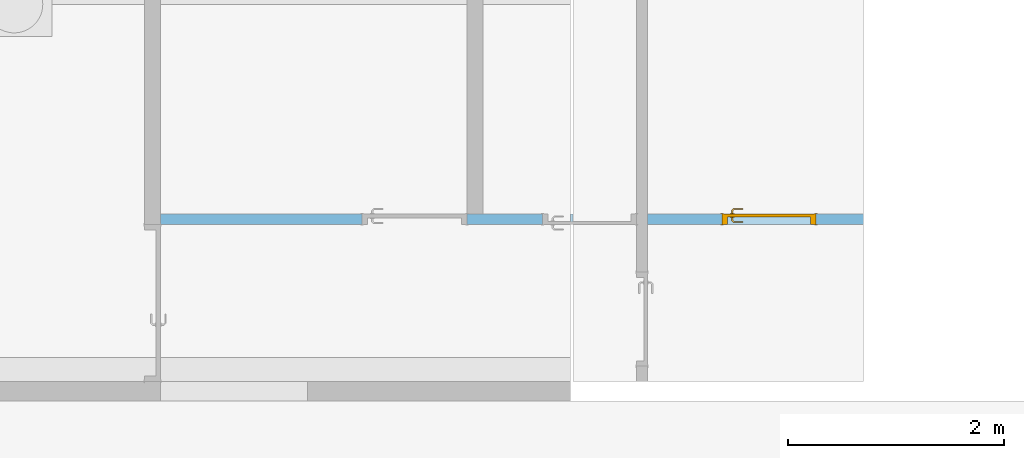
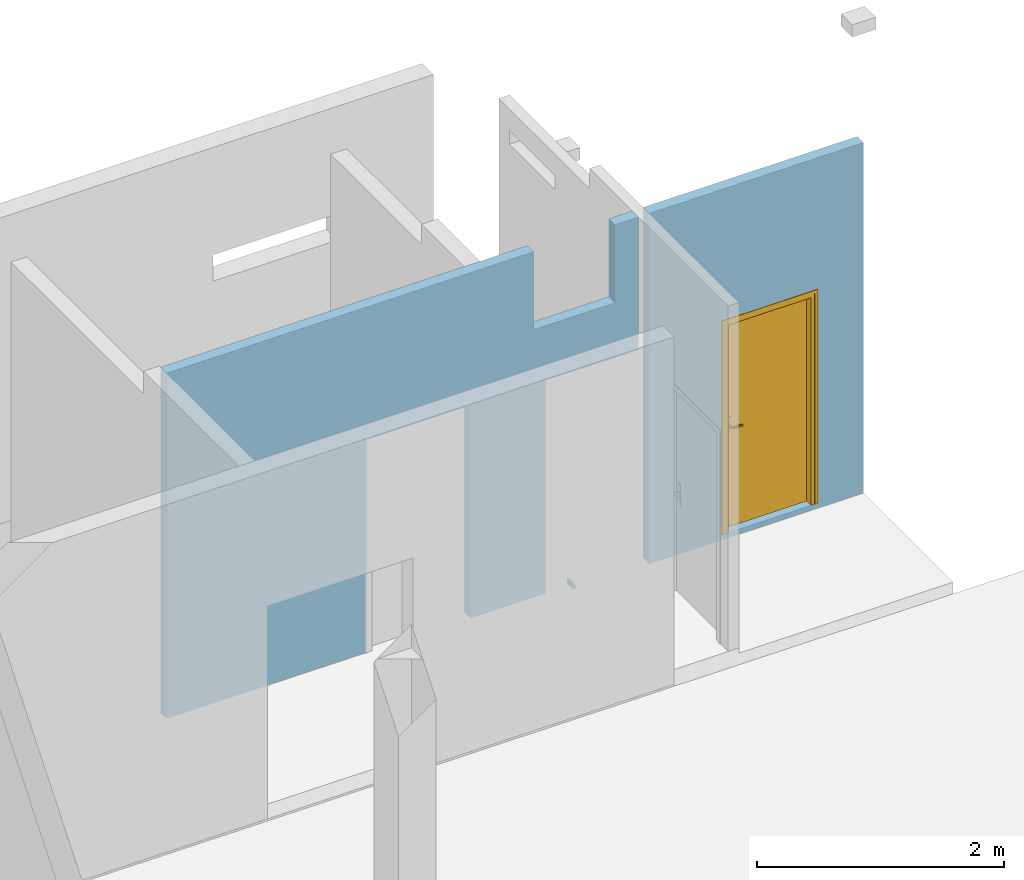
# One storey, part 25 of 29: 1 door, 3 openings, plus 1 element that does not belong to this part.
"""IFC2X3 building model written with IfcOpenShell, lengths in centimetres."""

from ifc_helpers import new_model, entity, si_unit, converted_unit, derived_unit, direction, frame, frame_2d, origin, place, context, subcontext, project, spatial, rectangle, extrude, faceted_brep, source, transform, mapped, material, material_list, layer, layer_set, type_object, type_shapes, element, fill, save


model = new_model("IFC2X3")

# Units and contexts
model_context = context("Model", 3, precision=0.001, world=origin(), true_north=direction((6.12303176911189e-17, 1.0)))
body_context = subcontext(model_context, "Body", "Model", "MODEL_VIEW")
ifc_project = project(units=[si_unit("LENGTHUNIT", "METRE", prefix="CENTI"), si_unit("AREAUNIT", "SQUARE_METRE"), si_unit("VOLUMEUNIT", "CUBIC_METRE"), converted_unit("PLANEANGLEUNIT", "DEGREE", entity("IfcRatioMeasure", 0.0174532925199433), si_unit("PLANEANGLEUNIT", "RADIAN"), dimensions=[0, 0, 0, 0, 0, 0, 0]), si_unit("MASSUNIT", "GRAM", prefix="KILO"), derived_unit("MASSDENSITYUNIT", [(si_unit("MASSUNIT", "GRAM", prefix="KILO"), 1), (si_unit("LENGTHUNIT", "METRE"), -3)]), si_unit("TIMEUNIT", "SECOND"), si_unit("FREQUENCYUNIT", "HERTZ"), si_unit("THERMODYNAMICTEMPERATUREUNIT", "DEGREE_CELSIUS"), derived_unit("THERMALTRANSMITTANCEUNIT", [(si_unit("MASSUNIT", "GRAM", prefix="KILO"), 1), (si_unit("THERMODYNAMICTEMPERATUREUNIT", "KELVIN"), -1), (si_unit("TIMEUNIT", "SECOND"), -3)]), derived_unit("VOLUMETRICFLOWRATEUNIT", [(si_unit("LENGTHUNIT", "METRE"), 3), (si_unit("TIMEUNIT", "SECOND"), -1)]), si_unit("ELECTRICCURRENTUNIT", "AMPERE"), si_unit("ELECTRICVOLTAGEUNIT", "VOLT"), si_unit("POWERUNIT", "WATT"), si_unit("FORCEUNIT", "NEWTON"), si_unit("ILLUMINANCEUNIT", "LUX"), si_unit("LUMINOUSFLUXUNIT", "LUMEN"), si_unit("LUMINOUSINTENSITYUNIT", "CANDELA"), derived_unit("USERDEFINED", [(si_unit("MASSUNIT", "GRAM", prefix="KILO"), -1), (si_unit("LENGTHUNIT", "METRE"), -2), (si_unit("TIMEUNIT", "SECOND"), 3), (si_unit("LUMINOUSFLUXUNIT", "LUMEN"), 1)]), derived_unit("LINEARVELOCITYUNIT", [(si_unit("LENGTHUNIT", "METRE"), 1), (si_unit("TIMEUNIT", "SECOND"), -1)]), si_unit("PRESSUREUNIT", "PASCAL"), derived_unit("USERDEFINED", [(si_unit("LENGTHUNIT", "METRE"), -2), (si_unit("MASSUNIT", "GRAM", prefix="KILO"), 1), (si_unit("TIMEUNIT", "SECOND"), -2)])], contexts=[model_context])

# Site, building, storey
site_placement = place(None, origin())
site = spatial("IfcSite", under=ifc_project, at=site_placement, Name="Default", CompositionType="ELEMENT")
building_placement = place(site_placement, origin())
building = spatial("IfcBuilding", under=site, at=building_placement, Name="CAGE 03", CompositionType="ELEMENT")
storey_placement = place(building_placement, frame((0.0, 0.0, -26.0)))
storey = spatial("IfcBuildingStorey", under=building, at=storey_placement, Name="+3.74", CompositionType="ELEMENT", Elevation=-26.0000000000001)

# Wall, openings, door
ifc_material_1 = material(Name="Bloc béton")
ifc_layer = layer(ifc_material_1, 10.0)
ifc_layer_set = layer_set([ifc_layer], Name="Mur de base:Int. Parpaing 100 mm")
wall_type = type_object("IfcWallType", Name="Mur de base:Int. Parpaing 100 mm", PredefinedType="STANDARD", material=ifc_layer_set)
wall_placement = place(storey_placement, frame((8407.86582014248, 5054.6606660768, -5.0)))
wall = element("IfcWall", 1, at=wall_placement, inside=storey, type_object=wall_type, Name="Mur de base:Int. Parpaing 100 mm", ObjectType="Mur de base:Int. Parpaing 100 mm", context=body_context, shape_type="Brep", body=[
    faceted_brep([(379.500000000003, -5.0, 0.0), (381.500000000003, -5.0, 0.0), (381.500000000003, -5.0, 5.0), (379.500000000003, -5.0, 5.0), (381.500000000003, 5.0, 5.0), (379.500000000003, 5.0, 5.0), (379.500000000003, 5.0, 0.0), (381.500000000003, 5.0, 0.0)], [[[0, 1, 2, 3]], [[3, 2, 4, 5]], [[1, 0, 6, 7]], [[2, 1, 7, 4]], [[0, 3, 5, 6]], [[7, 6, 5, 4]]]),
    faceted_brep([(606.5, 5.0, 5.0), (606.5, 5.0, 215.0), (519.499999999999, 5.0, 215.0), (519.500000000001, 5.0, 5.0), (450.500000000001, 5.0, 0.0), (450.500000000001, 5.0, 346.0), (650.5, 5.0, 346.0), (650.5, 5.0, 0.0), (450.500000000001, -5.0, 346.0), (450.500000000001, -5.0, 0.0), (650.5, -5.0, 346.0), (650.5, -5.0, 0.0), (606.5, -5.0, 5.0), (606.5, -5.0, 215.0), (519.500000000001, -5.0, 215.0), (519.500000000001, -5.0, 5.0)], [[[0, 1, 2, 3], [4, 5, 6, 7]], [[8, 5, 4, 9]], [[10, 11, 7, 6]], [[0, 12, 13, 1]], [[1, 13, 14, 2]], [[15, 3, 2, 14]], [[12, 0, 3, 15]], [[8, 10, 6, 5]], [[7, 11, 9, 4]], [[8, 9, 11, 10], [13, 12, 15, 14]]], outer=[[False, True], [True], [True], [True], [True], [True], [True], [True], [True], [True, False]]),
    faceted_brep([(0.0, -5.0, 346.0), (0.0, 5.0, 346.0), (0.0, 5.0, 5.0), (0.0, -5.0, 5.0), (0.0, -5.0, 212.500000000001), (440.500000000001, -5.0, 346.0), (440.500000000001, -5.0, 215.0), (440.500000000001, 5.0, 215.0), (440.500000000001, 5.0, 346.0), (283.499999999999, -5.0, 215.0), (283.499999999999, 5.0, 215.0), (283.499999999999, 5.0, 5.0), (283.499999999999, -5.0, 5.0), (186.5, -5.0, 215.0), (186.5, 5.0, 215.0), (186.5, -5.0, 5.0), (186.5, 5.0, 5.0), (353.5, -5.0, 215.0), (353.5, 5.0, 215.0), (353.5, -5.0, 5.0), (353.5, 5.0, 5.0), (418.499999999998, -5.0, 269.0), (418.499999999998, -5.0, 346.0), (418.499999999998, 5.0, 346.0), (418.499999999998, 5.0, 269.0), (342.499999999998, -5.0, 269.0), (342.499999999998, 5.0, 269.0), (342.499999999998, -5.0, 346.0), (342.499999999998, 5.0, 346.0), (298.500000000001, 5.0, 346.0), (283.500000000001, 5.0, 346.0), (298.500000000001, 5.0, 5.0)], [[[0, 1, 2, 3, 4]], [[5, 6, 7, 8]], [[9, 10, 11, 12]], [[10, 9, 13, 14]], [[14, 13, 15, 16]], [[17, 18, 7, 6]], [[18, 17, 19, 20]], [[21, 22, 23, 24]], [[25, 21, 24, 26]], [[27, 25, 26, 28]], [[0, 27, 28, 29, 30, 1]], [[15, 3, 2, 16]], [[19, 12, 11, 31, 20]], [[22, 5, 8, 23]], [[8, 7, 18, 20, 31, 11, 10, 14, 16, 2, 1, 30, 29, 28, 26, 24, 23]], [[6, 5, 22, 21, 25, 27, 0, 4, 3, 15, 13, 9, 12, 19, 17]]]),
])
opening_1_placement = place(wall_placement, frame((186.500000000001, -5.0, 5.0)))
element("IfcOpeningElement", 2, at=opening_1_placement, cuts=wall, Name="Int. Simple:HB93:1", ObjectType="Opening", context=body_context, shape_type="SweptSolid", body=[
    extrude(rectangle(XDim=210.000000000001, YDim=96.9999999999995, at=frame_2d((105.000000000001, 48.4999999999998), x_axis=(1.0, 0.0))), frame((0.0, 0.0, 0.0), z_axis=(0.0, 1.0, 0.0), x_axis=(0.0, 0.0, 1.0)), (0.0, 0.0, 1.0), 10.0),
])
opening_2_placement = place(wall_placement, frame((440.500000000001, 5.0, 5.0)))
element("IfcOpeningElement", 3, at=opening_2_placement, cuts=wall, Name="Int. Simple:HB83:1", ObjectType="Opening", context=body_context, shape_type="SweptSolid", body=[
    extrude(rectangle(XDim=210.000000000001, YDim=86.9999999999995, at=frame_2d((105.000000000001, 43.4999999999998), x_axis=(1.0, 0.0))), frame((0.0, 0.0, 0.0), z_axis=(0.0, -1.0, 0.0), x_axis=(0.0, 0.0, 1.0)), (0.0, 0.0, 1.0), 10.0),
])
opening_3_placement = place(wall_placement, frame((519.500000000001, -5.0, 5.0)))
opening_3 = element("IfcOpeningElement", 4, at=opening_3_placement, cuts=wall, Name="Int. Simple:HB83:1", ObjectType="Opening", context=body_context, shape_type="SweptSolid", body=[
    extrude(rectangle(XDim=210.000000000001, YDim=86.9999999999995, at=frame_2d((105.000000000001, 43.4999999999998), x_axis=(1.0, 0.0))), frame((0.0, 0.0, 0.0), z_axis=(0.0, 1.0, 0.0), x_axis=(0.0, 0.0, 1.0)), (0.0, 0.0, 1.0), 10.0),
])
ifc_material_2 = material(Name="Finition Peinture - Blanc satiné")
ifc_material_3 = material(Name="Bois - Panneau de porte")
ifc_material_4 = material(Name="Bois - Cadre de porte")
ifc_material_list_1 = material_list([ifc_material_2, ifc_material_3, ifc_material_4])
ifc_material_list_2 = material_list([ifc_material_2, ifc_material_3, ifc_material_4])
door_style = type_object("IfcDoorStyle", Name="HB83", ConstructionType="NOTDEFINED", OperationType="SINGLE_SWING_RIGHT", ParameterTakesPrecedence=False, Sizeable=False, material=ifc_material_list_2)
shared_shape = source(origin(), body_context, "Body", "Brep", [
    faceted_brep([(86.5000000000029, -0.500000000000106, 87.0), (86.5000000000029, -0.500000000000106, 108.0), (85.535276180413, -0.500000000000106, 108.399601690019), (84.5000000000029, -0.500000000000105, 108.535898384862), (83.4647238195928, -0.500000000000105, 108.399601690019), (82.500000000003, -0.500000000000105, 108.0), (82.5000000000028, -0.500000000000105, 87.0), (83.4647238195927, -0.500000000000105, 86.6003983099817), (84.5000000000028, -0.500000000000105, 86.464101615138), (85.5352761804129, -0.500000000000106, 86.6003983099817), (86.5000000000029, 0.0, 108.0), (86.5000000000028, 0.0, 87.0), (85.5352761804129, 0.0, 86.6003983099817), (84.5000000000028, 0.0, 86.464101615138), (83.4647238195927, 0.0, 86.6003983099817), (82.5000000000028, 0.0, 87.0), (82.500000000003, 0.0, 108.0), (83.4647238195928, 0.0, 108.399601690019), (84.5000000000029, 0.0, 108.535898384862), (85.535276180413, 0.0, 108.399601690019)], [[[0, 1, 2, 3, 4, 5, 6, 7, 8, 9]], [[10, 11, 12, 13, 14, 15, 16, 17, 18, 19]], [[9, 12, 11, 0]], [[8, 13, 12, 9]], [[7, 14, 13, 8]], [[7, 6, 15, 14]], [[15, 6, 5, 16]], [[4, 17, 16, 5]], [[3, 18, 17, 4]], [[2, 19, 18, 3]], [[2, 1, 10, 19]], [[11, 10, 1, 0]]]),
    faceted_brep([(86.5000000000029, 3.0, 87.0), (86.5000000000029, 3.0, 108.0), (85.535276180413, 3.0, 108.399601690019), (84.500000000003, 3.0, 108.535898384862), (83.4647238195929, 3.0, 108.399601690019), (82.500000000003, 3.0, 108.0), (82.5000000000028, 3.0, 87.0), (83.4647238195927, 3.0, 86.6003983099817), (84.5000000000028, 3.0, 86.464101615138), (85.5352761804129, 3.0, 86.6003983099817), (84.500000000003, 3.49999999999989, 108.535898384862), (85.535276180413, 3.49999999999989, 108.399601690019), (86.5000000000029, 3.49999999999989, 108.0), (86.5000000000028, 3.49999999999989, 87.0), (85.5352761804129, 3.49999999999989, 86.6003983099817), (84.5000000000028, 3.49999999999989, 86.464101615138), (83.4647238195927, 3.49999999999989, 86.6003983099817), (82.5000000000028, 3.49999999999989, 87.0), (82.500000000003, 3.49999999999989, 108.0), (83.4647238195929, 3.49999999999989, 108.399601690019)], [[[0, 1, 2, 3, 4, 5, 6, 7, 8, 9]], [[10, 11, 12, 13, 14, 15, 16, 17, 18, 19]], [[4, 19, 18, 5]], [[3, 10, 19, 4]], [[2, 11, 10, 3]], [[2, 1, 12, 11]], [[13, 12, 1, 0]], [[9, 14, 13, 0]], [[8, 15, 14, 9]], [[7, 16, 15, 8]], [[7, 6, 17, 16]], [[17, 6, 5, 18]]]),
    faceted_brep([(84.297470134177, -0.50000000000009, 100.778044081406), (84.7025298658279, -0.500000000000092, 100.778044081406), (85.1000000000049, -0.500000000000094, 100.699999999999), (85.1000000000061, -0.500000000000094, 99.299999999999), (84.702529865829, -0.500000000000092, 99.2219559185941), (84.297470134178, -0.50000000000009, 99.2219559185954), (83.9000000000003, -0.500000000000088, 99.3000000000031), (83.9000000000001, -0.500000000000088, 100.7), (84.7025298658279, -3.1004575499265, 100.778044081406), (85.1000000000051, -3.26509507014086, 100.7), (84.297470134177, -2.93267631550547, 100.778044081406), (82.9298602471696, -4.30028620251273, 100.778044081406), (83.0976414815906, -4.70534593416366, 100.778044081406), (83.9000000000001, -2.76803879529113, 100.7), (83.9000000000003, -2.76803879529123, 99.3000000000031), (84.297470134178, -2.93267631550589, 99.2219559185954), (84.702529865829, -3.10045754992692, 99.2219559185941), (83.097641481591, -4.70534593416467, 99.2219559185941), (82.92986024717, -4.30028620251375, 99.2219559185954), (85.1000000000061, -3.26509507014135, 99.299999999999), (83.2622790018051, -5.10281606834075, 100.7), (82.7652227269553, -3.90281606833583, 100.7), (82.7652227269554, -3.90281606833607, 99.3000000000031), (83.2622790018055, -5.10281606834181, 99.299999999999), (74.4981359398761, -5.1028160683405, 100.7), (74.4981359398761, -4.7053459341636, 100.778044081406), (74.4981359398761, -4.30028620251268, 100.778044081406), (74.4981359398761, -3.90281606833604, 100.699999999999), (74.4981359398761, -3.90281606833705, 99.3000000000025), (74.4981359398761, -4.30028620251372, 99.2219559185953), (74.4981359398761, -4.70534593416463, 99.2219559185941), (74.4981359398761, -5.10281606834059, 99.2999999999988), (78.7139980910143, -4.50281606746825, 100.78786867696), (79.2692302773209, -5.10281606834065, 100.7), (78.6316793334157, -3.90281606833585, 100.7), (78.6316793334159, -3.90281606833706, 99.3000000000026), (78.7139981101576, -4.50281607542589, 99.2121313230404), (79.2692299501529, -5.10281606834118, 99.2999999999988)], [[[0, 1, 2, 3, 4, 5, 6, 7]], [[2, 1, 8, 9]], [[1, 0, 10, 11, 12, 8]], [[0, 7, 13, 10]], [[14, 13, 7, 6]], [[5, 15, 14, 6]], [[5, 4, 16, 17, 18, 15]], [[3, 19, 16, 4]], [[9, 19, 3, 2]], [[9, 8, 12, 20]], [[10, 13, 21, 11]], [[22, 21, 13, 14]], [[14, 15, 18, 22]], [[16, 19, 23, 17]], [[20, 23, 19, 9]], [[24, 25, 26, 27, 28, 29, 30, 31]], [[32, 25, 33]], [[33, 25, 24]], [[33, 20, 12]], [[11, 34, 32]], [[34, 11, 21]], [[27, 26, 34]], [[32, 26, 25]], [[32, 34, 26]], [[32, 33, 12]], [[11, 32, 12]], [[21, 22, 35, 28, 27, 34]], [[36, 29, 35]], [[30, 36, 37]], [[18, 35, 22]], [[29, 28, 35]], [[30, 37, 31]], [[37, 17, 23]], [[36, 17, 37]], [[36, 18, 17]], [[36, 35, 18]], [[29, 36, 30]], [[23, 20, 33, 24, 31, 37]]]),
    faceted_brep([(84.2974701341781, 3.49999999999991, 99.2219559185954), (84.702529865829, 3.49999999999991, 99.2219559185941), (85.1000000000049, 3.49999999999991, 99.2999999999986), (85.1000000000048, 3.49999999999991, 100.7), (84.7025298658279, 3.49999999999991, 100.778044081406), (84.297470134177, 3.49999999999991, 100.778044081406), (83.9000000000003, 3.49999999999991, 100.7), (83.9000000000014, 3.49999999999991, 99.3000000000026), (83.9000000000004, 5.74852045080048, 100.7), (83.9000000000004, 5.74852045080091, 99.3000000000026), (84.2974701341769, 5.91315797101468, 100.778044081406), (84.7025298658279, 6.08093920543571, 100.778044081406), (83.0838906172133, 7.69957845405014, 100.778044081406), (82.9161093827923, 7.29451872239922, 100.778044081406), (85.1000000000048, 6.24557672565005, 100.7), (85.1000000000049, 6.2455767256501, 99.2999999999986), (84.702529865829, 6.08093920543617, 99.2219559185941), (84.2974701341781, 5.91315797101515, 99.2219559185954), (82.9161093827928, 7.29451872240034, 99.2219559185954), (83.0838906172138, 7.69957845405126, 99.2219559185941), (82.7514718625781, 6.89704858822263, 100.7), (82.7514718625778, 6.89704858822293, 99.3000000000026), (83.2485281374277, 8.09704858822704, 100.7), (83.2485281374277, 8.09704858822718, 99.2999999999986), (74.4954216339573, 7.29451872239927, 100.778044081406), (74.4954216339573, 7.6995784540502, 100.778044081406), (74.4954216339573, 8.0970485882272, 100.7), (74.4954216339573, 8.09704858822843, 99.299999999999), (74.4954216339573, 7.6995784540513, 99.2219559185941), (74.4954216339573, 7.29451872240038, 99.2219559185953), (74.4954216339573, 6.89704858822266, 99.3000000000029), (74.4954216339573, 6.89704858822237, 100.7), (78.6234467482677, 6.89704858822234, 100.7), (78.6234479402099, 6.89704858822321, 99.3000000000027), (78.7057655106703, 7.49704858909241, 100.78786867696), (79.255479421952, 8.09704858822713, 100.7), (79.2554794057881, 8.09704858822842, 99.299999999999), (78.7057654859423, 7.49704858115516, 99.2121313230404)], [[[0, 1, 2, 3, 4, 5, 6, 7]], [[8, 9, 7, 6]], [[5, 10, 8, 6]], [[5, 4, 11, 12, 13, 10]], [[3, 14, 11, 4]], [[14, 3, 2, 15]], [[2, 1, 16, 15]], [[1, 0, 17, 18, 19, 16]], [[0, 7, 9, 17]], [[20, 21, 9, 8]], [[8, 10, 13, 20]], [[14, 22, 12, 11]], [[23, 22, 14, 15]], [[15, 16, 19, 23]], [[17, 9, 21, 18]], [[24, 25, 26, 27, 28, 29, 30, 31]], [[20, 32, 31, 30, 33, 21]], [[34, 24, 32]], [[25, 34, 35]], [[13, 32, 20]], [[24, 31, 32]], [[25, 35, 26]], [[35, 12, 22]], [[34, 12, 35]], [[34, 13, 12]], [[34, 32, 13]], [[24, 34, 25]], [[22, 23, 36, 27, 26, 35]], [[37, 28, 36]], [[36, 28, 27]], [[36, 23, 19]], [[18, 33, 37]], [[33, 18, 21]], [[30, 29, 33]], [[37, 29, 28]], [[37, 33, 29]], [[37, 36, 19]], [[18, 37, 19]]]),
    faceted_brep([(90.5000000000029, 3.0, 206.5), (90.5000000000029, 3.0, 0.0), (10.5000000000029, 3.0, 0.0), (10.5000000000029, 3.0, 206.5), (90.5000000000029, 0.0, 206.5), (10.5000000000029, 0.0, 206.5), (10.5000000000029, 0.0, 0.0), (90.5000000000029, 0.0, 0.0)], [[[0, 1, 2, 3]], [[4, 5, 6, 7]], [[3, 5, 4, 0]], [[2, 6, 5, 3]], [[1, 7, 6, 2]], [[0, 4, 7, 1]]]),
    faceted_brep([(94.0, 0.0, 0.0), (90.5000000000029, 0.0, 0.0), (90.5000000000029, 3.0, 0.0), (89.0, 3.0, 0.0), (89.0, 10.0, 0.0), (94.0, 10.0, 0.0), (94.0, 10.0, 210.0), (94.0, 0.0, 210.0), (89.0, 10.0, 205.0), (12.0, 10.0, 205.0), (12.0, 10.0, 0.0), (7.0, 10.0, 0.0), (7.0, 10.0, 210.0), (89.0, 3.0, 205.0), (90.5000000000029, 3.0, 206.5), (10.5000000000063, 3.0, 206.5), (10.5000000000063, 3.0, 0.0), (12.0, 3.0, 0.0), (12.0, 3.0, 205.0), (90.5000000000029, 0.0, 206.5), (7.0, 0.0, 210.0), (7.0, 0.0, 0.0), (10.5000000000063, 0.0, 0.0), (10.5000000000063, 0.0, 206.5)], [[[0, 1, 2, 3, 4, 5]], [[5, 6, 7, 0]], [[4, 8, 9, 10, 11, 12, 6, 5]], [[3, 13, 8, 4]], [[2, 14, 15, 16, 17, 18, 13, 3]], [[1, 19, 14, 2]], [[0, 7, 20, 21, 22, 23, 19, 1]], [[12, 11, 21, 20]], [[21, 11, 10, 17, 16, 22]], [[18, 17, 10, 9]], [[23, 22, 16, 15]], [[6, 12, 20, 7]], [[13, 18, 9, 8]], [[19, 23, 15, 14]]]),
    faceted_brep([(92.5000000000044, 10.0, 0.0), (92.5000000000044, 10.5000000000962, 0.0), (95.5000000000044, 10.5000000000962, 0.0), (95.5000000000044, 10.0, 0.0), (95.5000000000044, 10.0, 211.500000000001), (5.50000000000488, 10.0, 211.500000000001), (5.50000000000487, 10.0, 0.0), (8.50000000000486, 10.0, 0.0), (8.50000000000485, 10.0, 208.500000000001), (92.5000000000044, 10.0, 208.500000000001), (95.5000000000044, 10.5000000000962, 211.500000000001), (92.5000000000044, 10.5000000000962, 208.500000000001), (8.50000000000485, 10.5000000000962, 208.500000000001), (8.50000000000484, 10.5000000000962, 0.0), (5.50000000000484, 10.5000000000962, 0.0), (5.50000000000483, 10.5000000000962, 211.500000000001)], [[[0, 1, 2, 3]], [[3, 4, 5, 6, 7, 8, 9, 0]], [[2, 10, 4, 3]], [[1, 11, 12, 13, 14, 15, 10, 2]], [[0, 9, 11, 1]], [[7, 6, 14, 13]], [[8, 7, 13, 12]], [[15, 14, 6, 5]], [[10, 15, 5, 4]], [[9, 8, 12, 11]]]),
    faceted_brep([(95.5000000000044, -0.5, 0.0), (95.5000000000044, -0.5, 211.500000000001), (5.50000000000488, -0.5, 211.500000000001), (5.50000000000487, -0.5, 0.0), (8.50000000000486, -0.5, 0.0), (8.50000000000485, -0.5, 208.500000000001), (92.5000000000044, -0.5, 208.500000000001), (92.5000000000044, -0.5, 0.0), (95.5000000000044, 0.0, 0.0), (95.5000000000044, 0.0, 211.500000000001), (92.5000000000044, 0.0, 0.0), (92.5000000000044, 0.0, 208.500000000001), (8.50000000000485, 0.0, 208.500000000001), (8.50000000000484, 0.0, 0.0), (5.50000000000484, 0.0, 0.0), (5.50000000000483, 0.0, 211.500000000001)], [[[0, 1, 2, 3, 4, 5, 6, 7]], [[8, 9, 1, 0]], [[10, 11, 12, 13, 14, 15, 9, 8]], [[7, 6, 11, 10]], [[5, 4, 13, 12]], [[15, 14, 3, 2]], [[9, 15, 2, 1]], [[6, 5, 12, 11]], [[4, 3, 14, 13]], [[7, 10, 8, 0]]]),
])
type_shapes(door_style, [shared_shape])
door_placement = place(opening_3_placement, frame((94.0, 10.0, 0.0), z_axis=(0.0, 0.0, 1.0), x_axis=(-1.0, 0.0, 0.0)))
door = element("IfcDoor", 5, at=door_placement, inside=storey, type_object=door_style, material=ifc_material_list_1, Name="Int. Simple:HB83", ObjectType="HB83", OverallHeight=210.000000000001, OverallWidth=86.9999999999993, context=body_context, shape_type="MappedRepresentation", body=[
    mapped(shared_shape, transform((0.0, 0.0, 0.0), scale=1.0)),
])
fill(opening_3, door)

save(model, "model.ifc")
